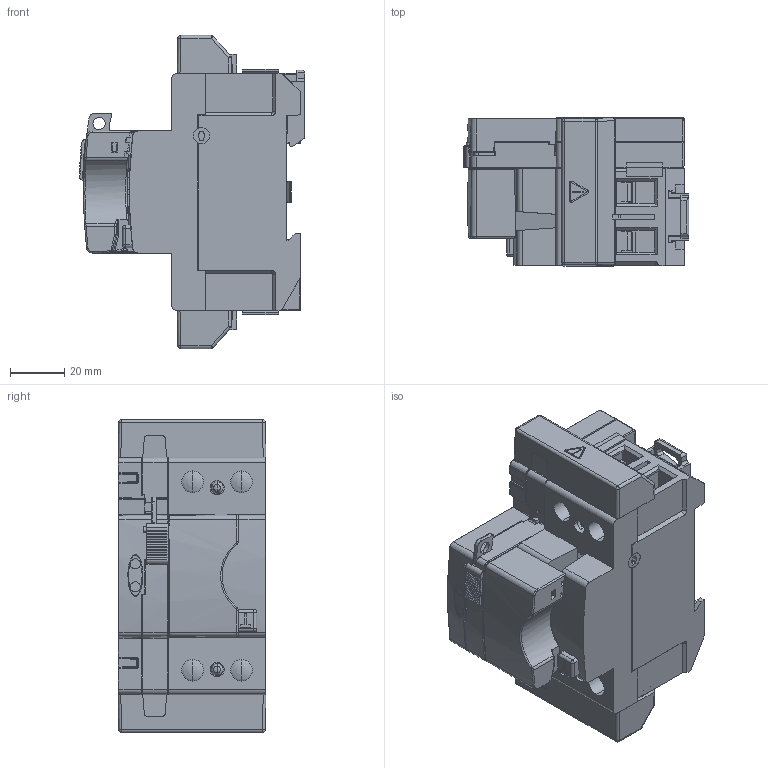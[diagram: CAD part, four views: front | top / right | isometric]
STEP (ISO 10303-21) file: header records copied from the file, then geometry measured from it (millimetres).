
FILE_DESCRIPTION((''),'2;1');
FILE_NAME('027920_ASM_15_SW0001','2021-09-21T09:42:07',('esors'),(''),'CREO PARAMETRIC BY PTC INC, 2018260','CREO PARAMETRIC BY PTC INC, 2018260','');
FILE_SCHEMA(('AUTOMOTIVE_DESIGN { 1 0 10303 214 1 1 1 1 }'));
Products named in the file (1): 027920_ASM_15_SW0001
Bounding box: 83.23 x 54.5 x 115.5 mm (x, y, z)
Volume: 90179.4 mm3; surface area: 106217.2 mm2
Topology: 3 solids, 3 shells, 6094 faces, 16651 edges, 10333 vertices
Faces by surface type: plane 3546, cylinder 1192, bspline 399, cone 348, torus 313, sphere 296
Entity records: 215245 total; most frequent: CARTESIAN_POINT 63563, ORIENTED_EDGE 32718, DIRECTION 29368, EDGE_CURVE 16359, VECTOR 10944, LINE 10944, VERTEX_POINT 10333, AXIS2_PLACEMENT_3D 9212
